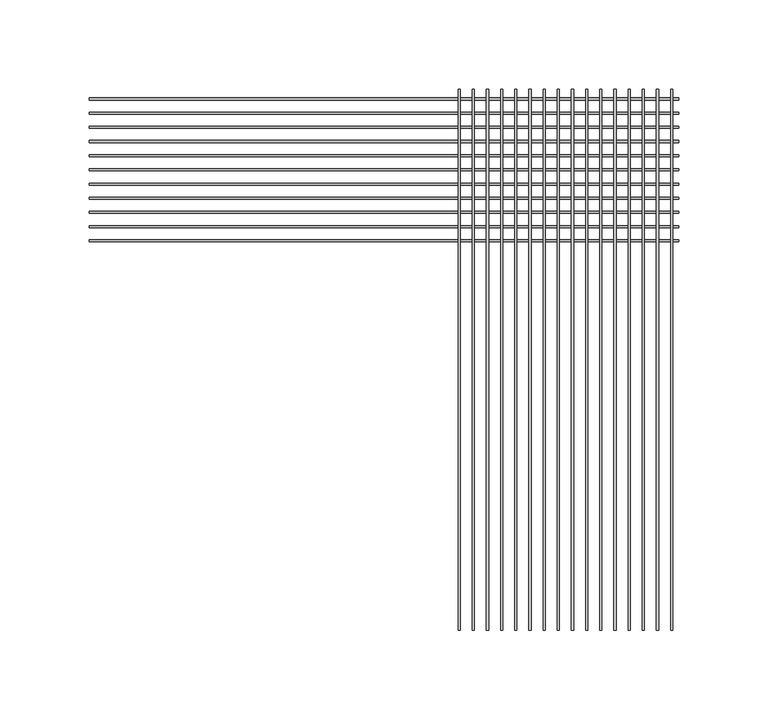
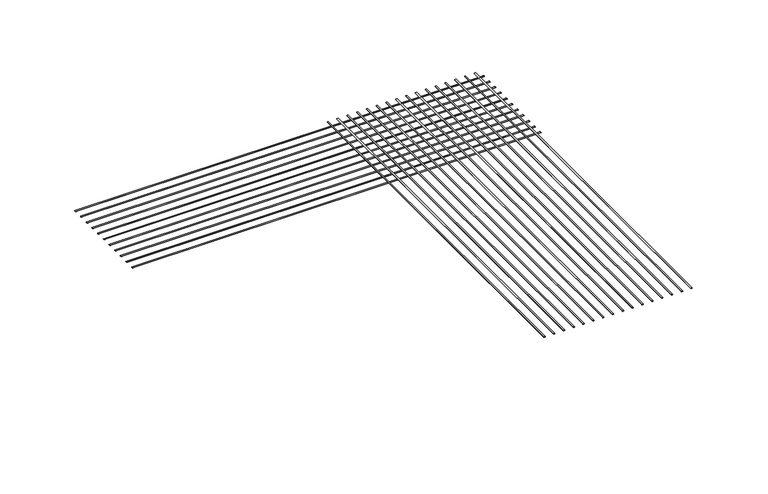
"""IFC4 building model written with IfcOpenShell, lengths in millimetres: proxy geometry, CRAi Generic Model Mesh Piece Face Based : CRAi Generic Model Mesh Piece Face Based."""

from ifc_helpers import new_model, si_unit, point, frame, origin, place, context, project, spatial, ellipse_curve, trimmed, source, transform, mapped, element, save
from ifc_brep_helpers import plane_surface, extruded_surface, advanced_brep


def generic_models_31d49adb(model_context):
    return source(origin(), model_context, "Body", "AdvancedBrep", [
        advanced_brep(
        [(41.4734375, -151.5685464, -2.5796875), (42.6640625, -151.5685464, -2.5796875), (41.4734375, 151.5685464, -2.5796875), (42.6640625, 151.5685464, -2.5796875)],
        [
            (0, 1, ellipse_curve(frame((42.06875, -151.5685464, -2.5796875), z_axis=(0.0, -1.0, 0.0), x_axis=(1.0, 0.0, 0.0)), 0.5953125, 0.1984375)),
            (1, 0, ellipse_curve(frame((42.06875, -151.5685464, -2.5796875), z_axis=(0.0, -1.0, 0.0), x_axis=(1.0, 0.0, 0.0)), 0.5953125, 0.1984375)),
            (2, 3, ellipse_curve(frame((42.06875, 151.5685464, -2.5796875), z_axis=(0.0, 1.0, 0.0), x_axis=(1.0, 0.0, 0.0)), 0.5953125, 0.1984375)),
            (3, 2, ellipse_curve(frame((42.06875, 151.5685464, -2.5796875), z_axis=(0.0, 1.0, 0.0), x_axis=(1.0, 0.0, 0.0)), 0.5953125, 0.1984375)),
            (0, 2),
            (3, 1),
        ],
        [
            plane_surface(frame((42.06875, -151.5685464, -2.5796875), z_axis=(0.0, -1.0, 0.0), x_axis=(0.0, 0.0, 1.0))),
            plane_surface(frame((42.06875, 151.5685464, -2.5796875), z_axis=(0.0, 1.0, 0.0), x_axis=(0.0, 0.0, 1.0))),
            extruded_surface(trimmed(ellipse_curve(frame((42.06875, 151.5685464, -2.5796875), z_axis=(0.0, -1.0, 0.0), x_axis=(1.0, 0.0, 0.0)), 0.5953125, 0.1984375), [point((41.4734375, 151.5685464, -2.5796875))], [point((42.6640625, 151.5685464, -2.5796875))], True, "CARTESIAN"), (0.0, -303.1370928, 0.0), 303.1370928),
            extruded_surface(trimmed(ellipse_curve(frame((42.06875, 151.5685464, -2.5796875), z_axis=(0.0, -1.0, 0.0), x_axis=(1.0, 0.0, 0.0)), 0.5953125, 0.1984375), [point((42.6640625, 151.5685464, -2.5796875))], [point((41.4734375, 151.5685464, -2.5796875))], True, "CARTESIAN"), (0.0, -303.1370928, 0.0), 303.1370928),
        ],
        [
            (0, [[1, 2]]),
            (1, [[3, 4]]),
            (2, [[-1, 5, -4, 6]]),
            (3, [[-2, -6, -3, -5]]),
        ],
    ),
        advanced_brep(
        [(49.4109375, -151.5685464, -2.5796875), (50.6015625, -151.5685464, -2.5796875), (49.4109375, 151.5685464, -2.5796875), (50.6015625, 151.5685464, -2.5796875)],
        [
            (0, 1, ellipse_curve(frame((50.00625, -151.5685464, -2.5796875), z_axis=(0.0, -1.0, 0.0), x_axis=(1.0, 0.0, 0.0)), 0.5953125, 0.1984375)),
            (1, 0, ellipse_curve(frame((50.00625, -151.5685464, -2.5796875), z_axis=(0.0, -1.0, 0.0), x_axis=(1.0, 0.0, 0.0)), 0.5953125, 0.1984375)),
            (2, 3, ellipse_curve(frame((50.00625, 151.5685464, -2.5796875), z_axis=(0.0, 1.0, 0.0), x_axis=(1.0, 0.0, 0.0)), 0.5953125, 0.1984375)),
            (3, 2, ellipse_curve(frame((50.00625, 151.5685464, -2.5796875), z_axis=(0.0, 1.0, 0.0), x_axis=(1.0, 0.0, 0.0)), 0.5953125, 0.1984375)),
            (0, 2),
            (3, 1),
        ],
        [
            plane_surface(frame((50.00625, -151.5685464, -2.5796875), z_axis=(0.0, -1.0, 0.0), x_axis=(0.0, 0.0, 1.0))),
            plane_surface(frame((50.00625, 151.5685464, -2.5796875), z_axis=(0.0, 1.0, 0.0), x_axis=(0.0, 0.0, 1.0))),
            extruded_surface(trimmed(ellipse_curve(frame((50.00625, 151.5685464, -2.5796875), z_axis=(0.0, -1.0, 0.0), x_axis=(1.0, 0.0, 0.0)), 0.5953125, 0.1984375), [point((49.4109375, 151.5685464, -2.5796875))], [point((50.6015625, 151.5685464, -2.5796875))], True, "CARTESIAN"), (0.0, -303.1370928, 0.0), 303.1370928),
            extruded_surface(trimmed(ellipse_curve(frame((50.00625, 151.5685464, -2.5796875), z_axis=(0.0, -1.0, 0.0), x_axis=(1.0, 0.0, 0.0)), 0.5953125, 0.1984375), [point((50.6015625, 151.5685464, -2.5796875))], [point((49.4109375, 151.5685464, -2.5796875))], True, "CARTESIAN"), (0.0, -303.1370928, 0.0), 303.1370928),
        ],
        [
            (0, [[1, 2]]),
            (1, [[3, 4]]),
            (2, [[-1, 5, -4, 6]]),
            (3, [[-2, -6, -3, -5]]),
        ],
    ),
        advanced_brep(
        [(57.3484375, -151.5685464, -2.5796875), (58.5390625, -151.5685464, -2.5796875), (57.3484375, 151.5685464, -2.5796875), (58.5390625, 151.5685464, -2.5796875)],
        [
            (0, 1, ellipse_curve(frame((57.94375, -151.5685464, -2.5796875), z_axis=(0.0, -1.0, 0.0), x_axis=(1.0, 0.0, 0.0)), 0.5953125, 0.1984375)),
            (1, 0, ellipse_curve(frame((57.94375, -151.5685464, -2.5796875), z_axis=(0.0, -1.0, 0.0), x_axis=(1.0, 0.0, 0.0)), 0.5953125, 0.1984375)),
            (2, 3, ellipse_curve(frame((57.94375, 151.5685464, -2.5796875), z_axis=(0.0, 1.0, 0.0), x_axis=(1.0, 0.0, 0.0)), 0.5953125, 0.1984375)),
            (3, 2, ellipse_curve(frame((57.94375, 151.5685464, -2.5796875), z_axis=(0.0, 1.0, 0.0), x_axis=(1.0, 0.0, 0.0)), 0.5953125, 0.1984375)),
            (0, 2),
            (3, 1),
        ],
        [
            plane_surface(frame((57.94375, -151.5685464, -2.5796875), z_axis=(0.0, -1.0, 0.0), x_axis=(0.0, 0.0, 1.0))),
            plane_surface(frame((57.94375, 151.5685464, -2.5796875), z_axis=(0.0, 1.0, 0.0), x_axis=(0.0, 0.0, 1.0))),
            extruded_surface(trimmed(ellipse_curve(frame((57.94375, 151.5685464, -2.5796875), z_axis=(0.0, -1.0, 0.0), x_axis=(1.0, 0.0, 0.0)), 0.5953125, 0.1984375), [point((57.3484375, 151.5685464, -2.5796875))], [point((58.5390625, 151.5685464, -2.5796875))], True, "CARTESIAN"), (0.0, -303.1370928, 0.0), 303.1370928),
            extruded_surface(trimmed(ellipse_curve(frame((57.94375, 151.5685464, -2.5796875), z_axis=(0.0, -1.0, 0.0), x_axis=(1.0, 0.0, 0.0)), 0.5953125, 0.1984375), [point((58.5390625, 151.5685464, -2.5796875))], [point((57.3484375, 151.5685464, -2.5796875))], True, "CARTESIAN"), (0.0, -303.1370928, 0.0), 303.1370928),
        ],
        [
            (0, [[1, 2]]),
            (1, [[3, 4]]),
            (2, [[-1, 5, -4, 6]]),
            (3, [[-2, -6, -3, -5]]),
        ],
    ),
        advanced_brep(
        [(65.2859375, -151.5685464, -2.5796875), (66.4765625, -151.5685464, -2.5796875), (65.2859375, 151.5685464, -2.5796875), (66.4765625, 151.5685464, -2.5796875)],
        [
            (0, 1, ellipse_curve(frame((65.88125, -151.5685464, -2.5796875), z_axis=(0.0, -1.0, 0.0), x_axis=(1.0, 0.0, 0.0)), 0.5953125, 0.1984375)),
            (1, 0, ellipse_curve(frame((65.88125, -151.5685464, -2.5796875), z_axis=(0.0, -1.0, 0.0), x_axis=(1.0, 0.0, 0.0)), 0.5953125, 0.1984375)),
            (2, 3, ellipse_curve(frame((65.88125, 151.5685464, -2.5796875), z_axis=(0.0, 1.0, 0.0), x_axis=(1.0, 0.0, 0.0)), 0.5953125, 0.1984375)),
            (3, 2, ellipse_curve(frame((65.88125, 151.5685464, -2.5796875), z_axis=(0.0, 1.0, 0.0), x_axis=(1.0, 0.0, 0.0)), 0.5953125, 0.1984375)),
            (0, 2),
            (3, 1),
        ],
        [
            plane_surface(frame((65.88125, -151.5685464, -2.5796875), z_axis=(0.0, -1.0, 0.0), x_axis=(0.0, 0.0, 1.0))),
            plane_surface(frame((65.88125, 151.5685464, -2.5796875), z_axis=(0.0, 1.0, 0.0), x_axis=(0.0, 0.0, 1.0))),
            extruded_surface(trimmed(ellipse_curve(frame((65.88125, 151.5685464, -2.5796875), z_axis=(0.0, -1.0, 0.0), x_axis=(1.0, 0.0, 0.0)), 0.5953125, 0.1984375), [point((65.2859375, 151.5685464, -2.5796875))], [point((66.4765625, 151.5685464, -2.5796875))], True, "CARTESIAN"), (0.0, -303.1370928, 0.0), 303.1370928),
            extruded_surface(trimmed(ellipse_curve(frame((65.88125, 151.5685464, -2.5796875), z_axis=(0.0, -1.0, 0.0), x_axis=(1.0, 0.0, 0.0)), 0.5953125, 0.1984375), [point((66.4765625, 151.5685464, -2.5796875))], [point((65.2859375, 151.5685464, -2.5796875))], True, "CARTESIAN"), (0.0, -303.1370928, 0.0), 303.1370928),
        ],
        [
            (0, [[1, 2]]),
            (1, [[3, 4]]),
            (2, [[-1, 5, -4, 6]]),
            (3, [[-2, -6, -3, -5]]),
        ],
    ),
        advanced_brep(
        [(73.2234375, -151.5685464, -2.5796875), (74.4140625, -151.5685464, -2.5796875), (73.2234375, 151.5685464, -2.5796875), (74.4140625, 151.5685464, -2.5796875)],
        [
            (0, 1, ellipse_curve(frame((73.81875, -151.5685464, -2.5796875), z_axis=(0.0, -1.0, 0.0), x_axis=(1.0, 0.0, 0.0)), 0.5953125, 0.1984375)),
            (1, 0, ellipse_curve(frame((73.81875, -151.5685464, -2.5796875), z_axis=(0.0, -1.0, 0.0), x_axis=(1.0, 0.0, 0.0)), 0.5953125, 0.1984375)),
            (2, 3, ellipse_curve(frame((73.81875, 151.5685464, -2.5796875), z_axis=(0.0, 1.0, 0.0), x_axis=(1.0, 0.0, 0.0)), 0.5953125, 0.1984375)),
            (3, 2, ellipse_curve(frame((73.81875, 151.5685464, -2.5796875), z_axis=(0.0, 1.0, 0.0), x_axis=(1.0, 0.0, 0.0)), 0.5953125, 0.1984375)),
            (0, 2),
            (3, 1),
        ],
        [
            plane_surface(frame((73.81875, -151.5685464, -2.5796875), z_axis=(0.0, -1.0, 0.0), x_axis=(0.0, 0.0, 1.0))),
            plane_surface(frame((73.81875, 151.5685464, -2.5796875), z_axis=(0.0, 1.0, 0.0), x_axis=(0.0, 0.0, 1.0))),
            extruded_surface(trimmed(ellipse_curve(frame((73.81875, 151.5685464, -2.5796875), z_axis=(0.0, -1.0, 0.0), x_axis=(1.0, 0.0, 0.0)), 0.5953125, 0.1984375), [point((73.2234375, 151.5685464, -2.5796875))], [point((74.4140625, 151.5685464, -2.5796875))], True, "CARTESIAN"), (0.0, -303.1370928, 0.0), 303.1370928),
            extruded_surface(trimmed(ellipse_curve(frame((73.81875, 151.5685464, -2.5796875), z_axis=(0.0, -1.0, 0.0), x_axis=(1.0, 0.0, 0.0)), 0.5953125, 0.1984375), [point((74.4140625, 151.5685464, -2.5796875))], [point((73.2234375, 151.5685464, -2.5796875))], True, "CARTESIAN"), (0.0, -303.1370928, 0.0), 303.1370928),
        ],
        [
            (0, [[1, 2]]),
            (1, [[3, 4]]),
            (2, [[-1, 5, -4, 6]]),
            (3, [[-2, -6, -3, -5]]),
        ],
    ),
        advanced_brep(
        [(81.1609375, -151.5685464, -2.5796875), (82.3515625, -151.5685464, -2.5796875), (81.1609375, 151.5685464, -2.5796875), (82.3515625, 151.5685464, -2.5796875)],
        [
            (0, 1, ellipse_curve(frame((81.75625, -151.5685464, -2.5796875), z_axis=(0.0, -1.0, 0.0), x_axis=(1.0, 0.0, 0.0)), 0.5953125, 0.1984375)),
            (1, 0, ellipse_curve(frame((81.75625, -151.5685464, -2.5796875), z_axis=(0.0, -1.0, 0.0), x_axis=(1.0, 0.0, 0.0)), 0.5953125, 0.1984375)),
            (2, 3, ellipse_curve(frame((81.75625, 151.5685464, -2.5796875), z_axis=(0.0, 1.0, 0.0), x_axis=(1.0, 0.0, 0.0)), 0.5953125, 0.1984375)),
            (3, 2, ellipse_curve(frame((81.75625, 151.5685464, -2.5796875), z_axis=(0.0, 1.0, 0.0), x_axis=(1.0, 0.0, 0.0)), 0.5953125, 0.1984375)),
            (0, 2),
            (3, 1),
        ],
        [
            plane_surface(frame((81.75625, -151.5685464, -2.5796875), z_axis=(0.0, -1.0, 0.0), x_axis=(0.0, 0.0, 1.0))),
            plane_surface(frame((81.75625, 151.5685464, -2.5796875), z_axis=(0.0, 1.0, 0.0), x_axis=(0.0, 0.0, 1.0))),
            extruded_surface(trimmed(ellipse_curve(frame((81.75625, 151.5685464, -2.5796875), z_axis=(0.0, -1.0, 0.0), x_axis=(1.0, 0.0, 0.0)), 0.5953125, 0.1984375), [point((81.1609375, 151.5685464, -2.5796875))], [point((82.3515625, 151.5685464, -2.5796875))], True, "CARTESIAN"), (0.0, -303.1370928, 0.0), 303.1370928),
            extruded_surface(trimmed(ellipse_curve(frame((81.75625, 151.5685464, -2.5796875), z_axis=(0.0, -1.0, 0.0), x_axis=(1.0, 0.0, 0.0)), 0.5953125, 0.1984375), [point((82.3515625, 151.5685464, -2.5796875))], [point((81.1609375, 151.5685464, -2.5796875))], True, "CARTESIAN"), (0.0, -303.1370928, 0.0), 303.1370928),
        ],
        [
            (0, [[1, 2]]),
            (1, [[3, 4]]),
            (2, [[-1, 5, -4, 6]]),
            (3, [[-2, -6, -3, -5]]),
        ],
    ),
        advanced_brep(
        [(89.0984375, -151.5685464, -2.5796875), (90.2890625, -151.5685464, -2.5796875), (89.0984375, 151.5685464, -2.5796875), (90.2890625, 151.5685464, -2.5796875)],
        [
            (0, 1, ellipse_curve(frame((89.69375, -151.5685464, -2.5796875), z_axis=(0.0, -1.0, 0.0), x_axis=(1.0, 0.0, 0.0)), 0.5953125, 0.1984375)),
            (1, 0, ellipse_curve(frame((89.69375, -151.5685464, -2.5796875), z_axis=(0.0, -1.0, 0.0), x_axis=(1.0, 0.0, 0.0)), 0.5953125, 0.1984375)),
            (2, 3, ellipse_curve(frame((89.69375, 151.5685464, -2.5796875), z_axis=(0.0, 1.0, 0.0), x_axis=(1.0, 0.0, 0.0)), 0.5953125, 0.1984375)),
            (3, 2, ellipse_curve(frame((89.69375, 151.5685464, -2.5796875), z_axis=(0.0, 1.0, 0.0), x_axis=(1.0, 0.0, 0.0)), 0.5953125, 0.1984375)),
            (0, 2),
            (3, 1),
        ],
        [
            plane_surface(frame((89.69375, -151.5685464, -2.5796875), z_axis=(0.0, -1.0, 0.0), x_axis=(0.0, 0.0, 1.0))),
            plane_surface(frame((89.69375, 151.5685464, -2.5796875), z_axis=(0.0, 1.0, 0.0), x_axis=(0.0, 0.0, 1.0))),
            extruded_surface(trimmed(ellipse_curve(frame((89.69375, 151.5685464, -2.5796875), z_axis=(0.0, -1.0, 0.0), x_axis=(1.0, 0.0, 0.0)), 0.5953125, 0.1984375), [point((89.0984375, 151.5685464, -2.5796875))], [point((90.2890625, 151.5685464, -2.5796875))], True, "CARTESIAN"), (0.0, -303.1370928, 0.0), 303.1370928),
            extruded_surface(trimmed(ellipse_curve(frame((89.69375, 151.5685464, -2.5796875), z_axis=(0.0, -1.0, 0.0), x_axis=(1.0, 0.0, 0.0)), 0.5953125, 0.1984375), [point((90.2890625, 151.5685464, -2.5796875))], [point((89.0984375, 151.5685464, -2.5796875))], True, "CARTESIAN"), (0.0, -303.1370928, 0.0), 303.1370928),
        ],
        [
            (0, [[1, 2]]),
            (1, [[3, 4]]),
            (2, [[-1, 5, -4, 6]]),
            (3, [[-2, -6, -3, -5]]),
        ],
    ),
        advanced_brep(
        [(97.0359375, -151.5685464, -2.5796875), (98.2265625, -151.5685464, -2.5796875), (97.0359375, 151.5685464, -2.5796875), (98.2265625, 151.5685464, -2.5796875)],
        [
            (0, 1, ellipse_curve(frame((97.63125, -151.5685464, -2.5796875), z_axis=(0.0, -1.0, 0.0), x_axis=(1.0, 0.0, 0.0)), 0.5953125, 0.1984375)),
            (1, 0, ellipse_curve(frame((97.63125, -151.5685464, -2.5796875), z_axis=(0.0, -1.0, 0.0), x_axis=(1.0, 0.0, 0.0)), 0.5953125, 0.1984375)),
            (2, 3, ellipse_curve(frame((97.63125, 151.5685464, -2.5796875), z_axis=(0.0, 1.0, 0.0), x_axis=(1.0, 0.0, 0.0)), 0.5953125, 0.1984375)),
            (3, 2, ellipse_curve(frame((97.63125, 151.5685464, -2.5796875), z_axis=(0.0, 1.0, 0.0), x_axis=(1.0, 0.0, 0.0)), 0.5953125, 0.1984375)),
            (0, 2),
            (3, 1),
        ],
        [
            plane_surface(frame((97.63125, -151.5685464, -2.5796875), z_axis=(0.0, -1.0, 0.0), x_axis=(0.0, 0.0, 1.0))),
            plane_surface(frame((97.63125, 151.5685464, -2.5796875), z_axis=(0.0, 1.0, 0.0), x_axis=(0.0, 0.0, 1.0))),
            extruded_surface(trimmed(ellipse_curve(frame((97.63125, 151.5685464, -2.5796875), z_axis=(0.0, -1.0, 0.0), x_axis=(1.0, 0.0, 0.0)), 0.5953125, 0.1984375), [point((97.0359375, 151.5685464, -2.5796875))], [point((98.2265625, 151.5685464, -2.5796875))], True, "CARTESIAN"), (0.0, -303.1370928, 0.0), 303.1370928),
            extruded_surface(trimmed(ellipse_curve(frame((97.63125, 151.5685464, -2.5796875), z_axis=(0.0, -1.0, 0.0), x_axis=(1.0, 0.0, 0.0)), 0.5953125, 0.1984375), [point((98.2265625, 151.5685464, -2.5796875))], [point((97.0359375, 151.5685464, -2.5796875))], True, "CARTESIAN"), (0.0, -303.1370928, 0.0), 303.1370928),
        ],
        [
            (0, [[1, 2]]),
            (1, [[3, 4]]),
            (2, [[-1, 5, -4, 6]]),
            (3, [[-2, -6, -3, -5]]),
        ],
    ),
        advanced_brep(
        [(104.9734375, -151.5685464, -2.5796875), (106.1640625, -151.5685464, -2.5796875), (104.9734375, 151.5685464, -2.5796875), (106.1640625, 151.5685464, -2.5796875)],
        [
            (0, 1, ellipse_curve(frame((105.56875, -151.5685464, -2.5796875), z_axis=(0.0, -1.0, 0.0), x_axis=(1.0, 0.0, 0.0)), 0.5953125, 0.1984375)),
            (1, 0, ellipse_curve(frame((105.56875, -151.5685464, -2.5796875), z_axis=(0.0, -1.0, 0.0), x_axis=(1.0, 0.0, 0.0)), 0.5953125, 0.1984375)),
            (2, 3, ellipse_curve(frame((105.56875, 151.5685464, -2.5796875), z_axis=(0.0, 1.0, 0.0), x_axis=(1.0, 0.0, 0.0)), 0.5953125, 0.1984375)),
            (3, 2, ellipse_curve(frame((105.56875, 151.5685464, -2.5796875), z_axis=(0.0, 1.0, 0.0), x_axis=(1.0, 0.0, 0.0)), 0.5953125, 0.1984375)),
            (0, 2),
            (3, 1),
        ],
        [
            plane_surface(frame((105.56875, -151.5685464, -2.5796875), z_axis=(0.0, -1.0, 0.0), x_axis=(0.0, 0.0, 1.0))),
            plane_surface(frame((105.56875, 151.5685464, -2.5796875), z_axis=(0.0, 1.0, 0.0), x_axis=(0.0, 0.0, 1.0))),
            extruded_surface(trimmed(ellipse_curve(frame((105.56875, 151.5685464, -2.5796875), z_axis=(0.0, -1.0, 0.0), x_axis=(1.0, 0.0, 0.0)), 0.5953125, 0.1984375), [point((104.9734375, 151.5685464, -2.5796875))], [point((106.1640625, 151.5685464, -2.5796875))], True, "CARTESIAN"), (0.0, -303.1370928, 0.0), 303.1370928),
            extruded_surface(trimmed(ellipse_curve(frame((105.56875, 151.5685464, -2.5796875), z_axis=(0.0, -1.0, 0.0), x_axis=(1.0, 0.0, 0.0)), 0.5953125, 0.1984375), [point((106.1640625, 151.5685464, -2.5796875))], [point((104.9734375, 151.5685464, -2.5796875))], True, "CARTESIAN"), (0.0, -303.1370928, 0.0), 303.1370928),
        ],
        [
            (0, [[1, 2]]),
            (1, [[3, 4]]),
            (2, [[-1, 5, -4, 6]]),
            (3, [[-2, -6, -3, -5]]),
        ],
    ),
        advanced_brep(
        [(112.9109375, -151.5685464, -2.5796875), (114.1015625, -151.5685464, -2.5796875), (112.9109375, 151.5685464, -2.5796875), (114.1015625, 151.5685464, -2.5796875)],
        [
            (0, 1, ellipse_curve(frame((113.50625, -151.5685464, -2.5796875), z_axis=(0.0, -1.0, 0.0), x_axis=(1.0, 0.0, 0.0)), 0.5953125, 0.1984375)),
            (1, 0, ellipse_curve(frame((113.50625, -151.5685464, -2.5796875), z_axis=(0.0, -1.0, 0.0), x_axis=(1.0, 0.0, 0.0)), 0.5953125, 0.1984375)),
            (2, 3, ellipse_curve(frame((113.50625, 151.5685464, -2.5796875), z_axis=(0.0, 1.0, 0.0), x_axis=(1.0, 0.0, 0.0)), 0.5953125, 0.1984375)),
            (3, 2, ellipse_curve(frame((113.50625, 151.5685464, -2.5796875), z_axis=(0.0, 1.0, 0.0), x_axis=(1.0, 0.0, 0.0)), 0.5953125, 0.1984375)),
            (0, 2),
            (3, 1),
        ],
        [
            plane_surface(frame((113.50625, -151.5685464, -2.5796875), z_axis=(0.0, -1.0, 0.0), x_axis=(0.0, 0.0, 1.0))),
            plane_surface(frame((113.50625, 151.5685464, -2.5796875), z_axis=(0.0, 1.0, 0.0), x_axis=(0.0, 0.0, 1.0))),
            extruded_surface(trimmed(ellipse_curve(frame((113.50625, 151.5685464, -2.5796875), z_axis=(0.0, -1.0, 0.0), x_axis=(1.0, 0.0, 0.0)), 0.5953125, 0.1984375), [point((112.9109375, 151.5685464, -2.5796875))], [point((114.1015625, 151.5685464, -2.5796875))], True, "CARTESIAN"), (0.0, -303.1370928, 0.0), 303.1370928),
            extruded_surface(trimmed(ellipse_curve(frame((113.50625, 151.5685464, -2.5796875), z_axis=(0.0, -1.0, 0.0), x_axis=(1.0, 0.0, 0.0)), 0.5953125, 0.1984375), [point((114.1015625, 151.5685464, -2.5796875))], [point((112.9109375, 151.5685464, -2.5796875))], True, "CARTESIAN"), (0.0, -303.1370928, 0.0), 303.1370928),
        ],
        [
            (0, [[1, 2]]),
            (1, [[3, 4]]),
            (2, [[-1, 5, -4, 6]]),
            (3, [[-2, -6, -3, -5]]),
        ],
    ),
        advanced_brep(
        [(120.8484375, -151.5685464, -2.5796875), (122.0390625, -151.5685464, -2.5796875), (120.8484375, 151.5685464, -2.5796875), (122.0390625, 151.5685464, -2.5796875)],
        [
            (0, 1, ellipse_curve(frame((121.44375, -151.5685464, -2.5796875), z_axis=(0.0, -1.0, 0.0), x_axis=(1.0, 0.0, 0.0)), 0.5953125, 0.1984375)),
            (1, 0, ellipse_curve(frame((121.44375, -151.5685464, -2.5796875), z_axis=(0.0, -1.0, 0.0), x_axis=(1.0, 0.0, 0.0)), 0.5953125, 0.1984375)),
            (2, 3, ellipse_curve(frame((121.44375, 151.5685464, -2.5796875), z_axis=(0.0, 1.0, 0.0), x_axis=(1.0, 0.0, 0.0)), 0.5953125, 0.1984375)),
            (3, 2, ellipse_curve(frame((121.44375, 151.5685464, -2.5796875), z_axis=(0.0, 1.0, 0.0), x_axis=(1.0, 0.0, 0.0)), 0.5953125, 0.1984375)),
            (0, 2),
            (3, 1),
        ],
        [
            plane_surface(frame((121.44375, -151.5685464, -2.5796875), z_axis=(0.0, -1.0, 0.0), x_axis=(0.0, 0.0, 1.0))),
            plane_surface(frame((121.44375, 151.5685464, -2.5796875), z_axis=(0.0, 1.0, 0.0), x_axis=(0.0, 0.0, 1.0))),
            extruded_surface(trimmed(ellipse_curve(frame((121.44375, 151.5685464, -2.5796875), z_axis=(0.0, -1.0, 0.0), x_axis=(1.0, 0.0, 0.0)), 0.5953125, 0.1984375), [point((120.8484375, 151.5685464, -2.5796875))], [point((122.0390625, 151.5685464, -2.5796875))], True, "CARTESIAN"), (0.0, -303.1370928, 0.0), 303.1370928),
            extruded_surface(trimmed(ellipse_curve(frame((121.44375, 151.5685464, -2.5796875), z_axis=(0.0, -1.0, 0.0), x_axis=(1.0, 0.0, 0.0)), 0.5953125, 0.1984375), [point((122.0390625, 151.5685464, -2.5796875))], [point((120.8484375, 151.5685464, -2.5796875))], True, "CARTESIAN"), (0.0, -303.1370928, 0.0), 303.1370928),
        ],
        [
            (0, [[1, 2]]),
            (1, [[3, 4]]),
            (2, [[-1, 5, -4, 6]]),
            (3, [[-2, -6, -3, -5]]),
        ],
    ),
        advanced_brep(
        [(128.7859375, -151.5685464, -2.5796875), (129.9765625, -151.5685464, -2.5796875), (128.7859375, 151.5685464, -2.5796875), (129.9765625, 151.5685464, -2.5796875)],
        [
            (0, 1, ellipse_curve(frame((129.38125, -151.5685464, -2.5796875), z_axis=(0.0, -1.0, 0.0), x_axis=(1.0, 0.0, 0.0)), 0.5953125, 0.1984375)),
            (1, 0, ellipse_curve(frame((129.38125, -151.5685464, -2.5796875), z_axis=(0.0, -1.0, 0.0), x_axis=(1.0, 0.0, 0.0)), 0.5953125, 0.1984375)),
            (2, 3, ellipse_curve(frame((129.38125, 151.5685464, -2.5796875), z_axis=(0.0, 1.0, 0.0), x_axis=(1.0, 0.0, 0.0)), 0.5953125, 0.1984375)),
            (3, 2, ellipse_curve(frame((129.38125, 151.5685464, -2.5796875), z_axis=(0.0, 1.0, 0.0), x_axis=(1.0, 0.0, 0.0)), 0.5953125, 0.1984375)),
            (0, 2),
            (3, 1),
        ],
        [
            plane_surface(frame((129.38125, -151.5685464, -2.5796875), z_axis=(0.0, -1.0, 0.0), x_axis=(0.0, 0.0, 1.0))),
            plane_surface(frame((129.38125, 151.5685464, -2.5796875), z_axis=(0.0, 1.0, 0.0), x_axis=(0.0, 0.0, 1.0))),
            extruded_surface(trimmed(ellipse_curve(frame((129.38125, 151.5685464, -2.5796875), z_axis=(0.0, -1.0, 0.0), x_axis=(1.0, 0.0, 0.0)), 0.5953125, 0.1984375), [point((128.7859375, 151.5685464, -2.5796875))], [point((129.9765625, 151.5685464, -2.5796875))], True, "CARTESIAN"), (0.0, -303.1370928, 0.0), 303.1370928),
            extruded_surface(trimmed(ellipse_curve(frame((129.38125, 151.5685464, -2.5796875), z_axis=(0.0, -1.0, 0.0), x_axis=(1.0, 0.0, 0.0)), 0.5953125, 0.1984375), [point((129.9765625, 151.5685464, -2.5796875))], [point((128.7859375, 151.5685464, -2.5796875))], True, "CARTESIAN"), (0.0, -303.1370928, 0.0), 303.1370928),
        ],
        [
            (0, [[1, 2]]),
            (1, [[3, 4]]),
            (2, [[-1, 5, -4, 6]]),
            (3, [[-2, -6, -3, -5]]),
        ],
    ),
        advanced_brep(
        [(136.7234375, -151.5685464, -2.5796875), (137.9140625, -151.5685464, -2.5796875), (136.7234375, 151.5685464, -2.5796875), (137.9140625, 151.5685464, -2.5796875)],
        [
            (0, 1, ellipse_curve(frame((137.31875, -151.5685464, -2.5796875), z_axis=(0.0, -1.0, 0.0), x_axis=(1.0, 0.0, 0.0)), 0.5953125, 0.1984375)),
            (1, 0, ellipse_curve(frame((137.31875, -151.5685464, -2.5796875), z_axis=(0.0, -1.0, 0.0), x_axis=(1.0, 0.0, 0.0)), 0.5953125, 0.1984375)),
            (2, 3, ellipse_curve(frame((137.31875, 151.5685464, -2.5796875), z_axis=(0.0, 1.0, 0.0), x_axis=(1.0, 0.0, 0.0)), 0.5953125, 0.1984375)),
            (3, 2, ellipse_curve(frame((137.31875, 151.5685464, -2.5796875), z_axis=(0.0, 1.0, 0.0), x_axis=(1.0, 0.0, 0.0)), 0.5953125, 0.1984375)),
            (0, 2),
            (3, 1),
        ],
        [
            plane_surface(frame((137.31875, -151.5685464, -2.5796875), z_axis=(0.0, -1.0, 0.0), x_axis=(0.0, 0.0, 1.0))),
            plane_surface(frame((137.31875, 151.5685464, -2.5796875), z_axis=(0.0, 1.0, 0.0), x_axis=(0.0, 0.0, 1.0))),
            extruded_surface(trimmed(ellipse_curve(frame((137.31875, 151.5685464, -2.5796875), z_axis=(0.0, -1.0, 0.0), x_axis=(1.0, 0.0, 0.0)), 0.5953125, 0.1984375), [point((136.7234375, 151.5685464, -2.5796875))], [point((137.9140625, 151.5685464, -2.5796875))], True, "CARTESIAN"), (0.0, -303.1370928, 0.0), 303.1370928),
            extruded_surface(trimmed(ellipse_curve(frame((137.31875, 151.5685464, -2.5796875), z_axis=(0.0, -1.0, 0.0), x_axis=(1.0, 0.0, 0.0)), 0.5953125, 0.1984375), [point((137.9140625, 151.5685464, -2.5796875))], [point((136.7234375, 151.5685464, -2.5796875))], True, "CARTESIAN"), (0.0, -303.1370928, 0.0), 303.1370928),
        ],
        [
            (0, [[1, 2]]),
            (1, [[3, 4]]),
            (2, [[-1, 5, -4, 6]]),
            (3, [[-2, -6, -3, -5]]),
        ],
    ),
        advanced_brep(
        [(144.6609375, -151.5685464, -2.5796875), (145.8515625, -151.5685464, -2.5796875), (144.6609375, 151.5685464, -2.5796875), (145.8515625, 151.5685464, -2.5796875)],
        [
            (0, 1, ellipse_curve(frame((145.25625, -151.5685464, -2.5796875), z_axis=(0.0, -1.0, 0.0), x_axis=(1.0, 0.0, 0.0)), 0.5953125, 0.1984375)),
            (1, 0, ellipse_curve(frame((145.25625, -151.5685464, -2.5796875), z_axis=(0.0, -1.0, 0.0), x_axis=(1.0, 0.0, 0.0)), 0.5953125, 0.1984375)),
            (2, 3, ellipse_curve(frame((145.25625, 151.5685464, -2.5796875), z_axis=(0.0, 1.0, 0.0), x_axis=(1.0, 0.0, 0.0)), 0.5953125, 0.1984375)),
            (3, 2, ellipse_curve(frame((145.25625, 151.5685464, -2.5796875), z_axis=(0.0, 1.0, 0.0), x_axis=(1.0, 0.0, 0.0)), 0.5953125, 0.1984375)),
            (0, 2),
            (3, 1),
        ],
        [
            plane_surface(frame((145.25625, -151.5685464, -2.5796875), z_axis=(0.0, -1.0, 0.0), x_axis=(0.0, 0.0, 1.0))),
            plane_surface(frame((145.25625, 151.5685464, -2.5796875), z_axis=(0.0, 1.0, 0.0), x_axis=(0.0, 0.0, 1.0))),
            extruded_surface(trimmed(ellipse_curve(frame((145.25625, 151.5685464, -2.5796875), z_axis=(0.0, -1.0, 0.0), x_axis=(1.0, 0.0, 0.0)), 0.5953125, 0.1984375), [point((144.6609375, 151.5685464, -2.5796875))], [point((145.8515625, 151.5685464, -2.5796875))], True, "CARTESIAN"), (0.0, -303.1370928, 0.0), 303.1370928),
            extruded_surface(trimmed(ellipse_curve(frame((145.25625, 151.5685464, -2.5796875), z_axis=(0.0, -1.0, 0.0), x_axis=(1.0, 0.0, 0.0)), 0.5953125, 0.1984375), [point((145.8515625, 151.5685464, -2.5796875))], [point((144.6609375, 151.5685464, -2.5796875))], True, "CARTESIAN"), (0.0, -303.1370928, 0.0), 303.1370928),
        ],
        [
            (0, [[1, 2]]),
            (1, [[3, 4]]),
            (2, [[-1, 5, -4, 6]]),
            (3, [[-2, -6, -3, -5]]),
        ],
    ),
        advanced_brep(
        [(152.5984375, -151.5685464, -2.5796875), (153.7890625, -151.5685464, -2.5796875), (152.5984375, 151.5685464, -2.5796875), (153.7890625, 151.5685464, -2.5796875)],
        [
            (0, 1, ellipse_curve(frame((153.19375, -151.5685464, -2.5796875), z_axis=(0.0, -1.0, 0.0), x_axis=(1.0, 0.0, 0.0)), 0.5953125, 0.1984375)),
            (1, 0, ellipse_curve(frame((153.19375, -151.5685464, -2.5796875), z_axis=(0.0, -1.0, 0.0), x_axis=(1.0, 0.0, 0.0)), 0.5953125, 0.1984375)),
            (2, 3, ellipse_curve(frame((153.19375, 151.5685464, -2.5796875), z_axis=(0.0, 1.0, 0.0), x_axis=(1.0, 0.0, 0.0)), 0.5953125, 0.1984375)),
            (3, 2, ellipse_curve(frame((153.19375, 151.5685464, -2.5796875), z_axis=(0.0, 1.0, 0.0), x_axis=(1.0, 0.0, 0.0)), 0.5953125, 0.1984375)),
            (0, 2),
            (3, 1),
        ],
        [
            plane_surface(frame((153.19375, -151.5685464, -2.5796875), z_axis=(0.0, -1.0, 0.0), x_axis=(0.0, 0.0, 1.0))),
            plane_surface(frame((153.19375, 151.5685464, -2.5796875), z_axis=(0.0, 1.0, 0.0), x_axis=(0.0, 0.0, 1.0))),
            extruded_surface(trimmed(ellipse_curve(frame((153.19375, 151.5685464, -2.5796875), z_axis=(0.0, -1.0, 0.0), x_axis=(1.0, 0.0, 0.0)), 0.5953125, 0.1984375), [point((152.5984375, 151.5685464, -2.5796875))], [point((153.7890625, 151.5685464, -2.5796875))], True, "CARTESIAN"), (0.0, -303.1370928, 0.0), 303.1370928),
            extruded_surface(trimmed(ellipse_curve(frame((153.19375, 151.5685464, -2.5796875), z_axis=(0.0, -1.0, 0.0), x_axis=(1.0, 0.0, 0.0)), 0.5953125, 0.1984375), [point((153.7890625, 151.5685464, -2.5796875))], [point((152.5984375, 151.5685464, -2.5796875))], True, "CARTESIAN"), (0.0, -303.1370928, 0.0), 303.1370928),
        ],
        [
            (0, [[1, 2]]),
            (1, [[3, 4]]),
            (2, [[-1, 5, -4, 6]]),
            (3, [[-2, -6, -3, -5]]),
        ],
    ),
        advanced_brep(
        [(160.5359375, -151.5685464, -2.5796875), (161.7265625, -151.5685464, -2.5796875), (160.5359375, 151.5685464, -2.5796875), (161.7265625, 151.5685464, -2.5796875)],
        [
            (0, 1, ellipse_curve(frame((161.13125, -151.5685464, -2.5796875), z_axis=(0.0, -1.0, 0.0), x_axis=(1.0, 0.0, 0.0)), 0.5953125, 0.1984375)),
            (1, 0, ellipse_curve(frame((161.13125, -151.5685464, -2.5796875), z_axis=(0.0, -1.0, 0.0), x_axis=(1.0, 0.0, 0.0)), 0.5953125, 0.1984375)),
            (2, 3, ellipse_curve(frame((161.13125, 151.5685464, -2.5796875), z_axis=(0.0, 1.0, 0.0), x_axis=(1.0, 0.0, 0.0)), 0.5953125, 0.1984375)),
            (3, 2, ellipse_curve(frame((161.13125, 151.5685464, -2.5796875), z_axis=(0.0, 1.0, 0.0), x_axis=(1.0, 0.0, 0.0)), 0.5953125, 0.1984375)),
            (0, 2),
            (3, 1),
        ],
        [
            plane_surface(frame((161.13125, -151.5685464, -2.5796875), z_axis=(0.0, -1.0, 0.0), x_axis=(0.0, 0.0, 1.0))),
            plane_surface(frame((161.13125, 151.5685464, -2.5796875), z_axis=(0.0, 1.0, 0.0), x_axis=(0.0, 0.0, 1.0))),
            extruded_surface(trimmed(ellipse_curve(frame((161.13125, 151.5685464, -2.5796875), z_axis=(0.0, -1.0, 0.0), x_axis=(1.0, 0.0, 0.0)), 0.5953125, 0.1984375), [point((160.5359375, 151.5685464, -2.5796875))], [point((161.7265625, 151.5685464, -2.5796875))], True, "CARTESIAN"), (0.0, -303.1370928, 0.0), 303.1370928),
            extruded_surface(trimmed(ellipse_curve(frame((161.13125, 151.5685464, -2.5796875), z_axis=(0.0, -1.0, 0.0), x_axis=(1.0, 0.0, 0.0)), 0.5953125, 0.1984375), [point((161.7265625, 151.5685464, -2.5796875))], [point((160.5359375, 151.5685464, -2.5796875))], True, "CARTESIAN"), (0.0, -303.1370928, 0.0), 303.1370928),
        ],
        [
            (0, [[1, 2]]),
            (1, [[3, 4]]),
            (2, [[-1, 5, -4, 6]]),
            (3, [[-2, -6, -3, -5]]),
        ],
    ),
        advanced_brep(
        [(-165.1, 146.6830161, -2.9765625), (-165.1, 145.4923911, -2.9765625), (165.1, 146.6830161, -2.9765625), (165.1, 145.4923911, -2.9765625)],
        [
            (0, 1, ellipse_curve(frame((-165.1, 146.0877036, -2.9765625), z_axis=(-1.0, 0.0, 0.0), x_axis=(0.0, -1.0, 0.0)), 0.5953125, 0.1984375)),
            (1, 0, ellipse_curve(frame((-165.1, 146.0877036, -2.9765625), z_axis=(-1.0, 0.0, 0.0), x_axis=(0.0, -1.0, 0.0)), 0.5953125, 0.1984375)),
            (2, 3, ellipse_curve(frame((165.1, 146.0877036, -2.9765625), z_axis=(1.0, 0.0, 0.0), x_axis=(0.0, -1.0, 0.0)), 0.5953125, 0.1984375)),
            (3, 2, ellipse_curve(frame((165.1, 146.0877036, -2.9765625), z_axis=(1.0, 0.0, 0.0), x_axis=(0.0, -1.0, 0.0)), 0.5953125, 0.1984375)),
            (0, 2),
            (3, 1),
        ],
        [
            plane_surface(frame((-165.1, 146.0877036, -2.9765625), z_axis=(-1.0, 0.0, 0.0), x_axis=(0.0, 0.0, 1.0))),
            plane_surface(frame((165.1, 146.0877036, -2.9765625), z_axis=(1.0, 0.0, 0.0), x_axis=(0.0, 0.0, 1.0))),
            extruded_surface(trimmed(ellipse_curve(frame((165.1, 146.0877036, -2.9765625), z_axis=(-1.0, 0.0, 0.0), x_axis=(0.0, -1.0, 0.0)), 0.5953125, 0.1984375), [point((165.1, 146.6830161, -2.9765625))], [point((165.1, 145.4923911, -2.9765625))], True, "CARTESIAN"), (-330.2, 0.0, 0.0), 330.2),
            extruded_surface(trimmed(ellipse_curve(frame((165.1, 146.0877036, -2.9765625), z_axis=(-1.0, 0.0, 0.0), x_axis=(0.0, -1.0, 0.0)), 0.5953125, 0.1984375), [point((165.1, 145.4923911, -2.9765625))], [point((165.1, 146.6830161, -2.9765625))], True, "CARTESIAN"), (-330.2, 0.0, 0.0), 330.2),
        ],
        [
            (0, [[1, 2]]),
            (1, [[3, 4]]),
            (2, [[-1, 5, -4, 6]]),
            (3, [[-2, -6, -3, -5]]),
        ],
    ),
        advanced_brep(
        [(-165.1, 138.7455161, -2.9765625), (-165.1, 137.5548911, -2.9765625), (165.1, 138.7455161, -2.9765625), (165.1, 137.5548911, -2.9765625)],
        [
            (0, 1, ellipse_curve(frame((-165.1, 138.1502036, -2.9765625), z_axis=(-1.0, 0.0, 0.0), x_axis=(0.0, -1.0, 0.0)), 0.5953125, 0.1984375)),
            (1, 0, ellipse_curve(frame((-165.1, 138.1502036, -2.9765625), z_axis=(-1.0, 0.0, 0.0), x_axis=(0.0, -1.0, 0.0)), 0.5953125, 0.1984375)),
            (2, 3, ellipse_curve(frame((165.1, 138.1502036, -2.9765625), z_axis=(1.0, 0.0, 0.0), x_axis=(0.0, -1.0, 0.0)), 0.5953125, 0.1984375)),
            (3, 2, ellipse_curve(frame((165.1, 138.1502036, -2.9765625), z_axis=(1.0, 0.0, 0.0), x_axis=(0.0, -1.0, 0.0)), 0.5953125, 0.1984375)),
            (0, 2),
            (3, 1),
        ],
        [
            plane_surface(frame((-165.1, 138.1502036, -2.9765625), z_axis=(-1.0, 0.0, 0.0), x_axis=(0.0, 0.0, 1.0))),
            plane_surface(frame((165.1, 138.1502036, -2.9765625), z_axis=(1.0, 0.0, 0.0), x_axis=(0.0, 0.0, 1.0))),
            extruded_surface(trimmed(ellipse_curve(frame((165.1, 138.1502036, -2.9765625), z_axis=(-1.0, 0.0, 0.0), x_axis=(0.0, -1.0, 0.0)), 0.5953125, 0.1984375), [point((165.1, 138.7455161, -2.9765625))], [point((165.1, 137.5548911, -2.9765625))], True, "CARTESIAN"), (-330.2, 0.0, 0.0), 330.2),
            extruded_surface(trimmed(ellipse_curve(frame((165.1, 138.1502036, -2.9765625), z_axis=(-1.0, 0.0, 0.0), x_axis=(0.0, -1.0, 0.0)), 0.5953125, 0.1984375), [point((165.1, 137.5548911, -2.9765625))], [point((165.1, 138.7455161, -2.9765625))], True, "CARTESIAN"), (-330.2, 0.0, 0.0), 330.2),
        ],
        [
            (0, [[1, 2]]),
            (1, [[3, 4]]),
            (2, [[-1, 5, -4, 6]]),
            (3, [[-2, -6, -3, -5]]),
        ],
    ),
        advanced_brep(
        [(-165.1, 130.8080161, -2.9765625), (-165.1, 129.6173911, -2.9765625), (165.1, 130.8080161, -2.9765625), (165.1, 129.6173911, -2.9765625)],
        [
            (0, 1, ellipse_curve(frame((-165.1, 130.2127036, -2.9765625), z_axis=(-1.0, 0.0, 0.0), x_axis=(0.0, -1.0, 0.0)), 0.5953125, 0.1984375)),
            (1, 0, ellipse_curve(frame((-165.1, 130.2127036, -2.9765625), z_axis=(-1.0, 0.0, 0.0), x_axis=(0.0, -1.0, 0.0)), 0.5953125, 0.1984375)),
            (2, 3, ellipse_curve(frame((165.1, 130.2127036, -2.9765625), z_axis=(1.0, 0.0, 0.0), x_axis=(0.0, -1.0, 0.0)), 0.5953125, 0.1984375)),
            (3, 2, ellipse_curve(frame((165.1, 130.2127036, -2.9765625), z_axis=(1.0, 0.0, 0.0), x_axis=(0.0, -1.0, 0.0)), 0.5953125, 0.1984375)),
            (0, 2),
            (3, 1),
        ],
        [
            plane_surface(frame((-165.1, 130.2127036, -2.9765625), z_axis=(-1.0, 0.0, 0.0), x_axis=(0.0, 0.0, 1.0))),
            plane_surface(frame((165.1, 130.2127036, -2.9765625), z_axis=(1.0, 0.0, 0.0), x_axis=(0.0, 0.0, 1.0))),
            extruded_surface(trimmed(ellipse_curve(frame((165.1, 130.2127036, -2.9765625), z_axis=(-1.0, 0.0, 0.0), x_axis=(0.0, -1.0, 0.0)), 0.5953125, 0.1984375), [point((165.1, 130.8080161, -2.9765625))], [point((165.1, 129.6173911, -2.9765625))], True, "CARTESIAN"), (-330.2, 0.0, 0.0), 330.2),
            extruded_surface(trimmed(ellipse_curve(frame((165.1, 130.2127036, -2.9765625), z_axis=(-1.0, 0.0, 0.0), x_axis=(0.0, -1.0, 0.0)), 0.5953125, 0.1984375), [point((165.1, 129.6173911, -2.9765625))], [point((165.1, 130.8080161, -2.9765625))], True, "CARTESIAN"), (-330.2, 0.0, 0.0), 330.2),
        ],
        [
            (0, [[1, 2]]),
            (1, [[3, 4]]),
            (2, [[-1, 5, -4, 6]]),
            (3, [[-2, -6, -3, -5]]),
        ],
    ),
        advanced_brep(
        [(-165.1, 122.8705161, -2.9765625), (-165.1, 121.6798911, -2.9765625), (165.1, 122.8705161, -2.9765625), (165.1, 121.6798911, -2.9765625)],
        [
            (0, 1, ellipse_curve(frame((-165.1, 122.2752036, -2.9765625), z_axis=(-1.0, 0.0, 0.0), x_axis=(0.0, -1.0, 0.0)), 0.5953125, 0.1984375)),
            (1, 0, ellipse_curve(frame((-165.1, 122.2752036, -2.9765625), z_axis=(-1.0, 0.0, 0.0), x_axis=(0.0, -1.0, 0.0)), 0.5953125, 0.1984375)),
            (2, 3, ellipse_curve(frame((165.1, 122.2752036, -2.9765625), z_axis=(1.0, 0.0, 0.0), x_axis=(0.0, -1.0, 0.0)), 0.5953125, 0.1984375)),
            (3, 2, ellipse_curve(frame((165.1, 122.2752036, -2.9765625), z_axis=(1.0, 0.0, 0.0), x_axis=(0.0, -1.0, 0.0)), 0.5953125, 0.1984375)),
            (0, 2),
            (3, 1),
        ],
        [
            plane_surface(frame((-165.1, 122.2752036, -2.9765625), z_axis=(-1.0, 0.0, 0.0), x_axis=(0.0, 0.0, 1.0))),
            plane_surface(frame((165.1, 122.2752036, -2.9765625), z_axis=(1.0, 0.0, 0.0), x_axis=(0.0, 0.0, 1.0))),
            extruded_surface(trimmed(ellipse_curve(frame((165.1, 122.2752036, -2.9765625), z_axis=(-1.0, 0.0, 0.0), x_axis=(0.0, -1.0, 0.0)), 0.5953125, 0.1984375), [point((165.1, 122.8705161, -2.9765625))], [point((165.1, 121.6798911, -2.9765625))], True, "CARTESIAN"), (-330.2, 0.0, 0.0), 330.2),
            extruded_surface(trimmed(ellipse_curve(frame((165.1, 122.2752036, -2.9765625), z_axis=(-1.0, 0.0, 0.0), x_axis=(0.0, -1.0, 0.0)), 0.5953125, 0.1984375), [point((165.1, 121.6798911, -2.9765625))], [point((165.1, 122.8705161, -2.9765625))], True, "CARTESIAN"), (-330.2, 0.0, 0.0), 330.2),
        ],
        [
            (0, [[1, 2]]),
            (1, [[3, 4]]),
            (2, [[-1, 5, -4, 6]]),
            (3, [[-2, -6, -3, -5]]),
        ],
    ),
        advanced_brep(
        [(-165.1, 114.9330161, -2.9765625), (-165.1, 113.7423911, -2.9765625), (165.1, 114.9330161, -2.9765625), (165.1, 113.7423911, -2.9765625)],
        [
            (0, 1, ellipse_curve(frame((-165.1, 114.3377036, -2.9765625), z_axis=(-1.0, 0.0, 0.0), x_axis=(0.0, -1.0, 0.0)), 0.5953125, 0.1984375)),
            (1, 0, ellipse_curve(frame((-165.1, 114.3377036, -2.9765625), z_axis=(-1.0, 0.0, 0.0), x_axis=(0.0, -1.0, 0.0)), 0.5953125, 0.1984375)),
            (2, 3, ellipse_curve(frame((165.1, 114.3377036, -2.9765625), z_axis=(1.0, 0.0, 0.0), x_axis=(0.0, -1.0, 0.0)), 0.5953125, 0.1984375)),
            (3, 2, ellipse_curve(frame((165.1, 114.3377036, -2.9765625), z_axis=(1.0, 0.0, 0.0), x_axis=(0.0, -1.0, 0.0)), 0.5953125, 0.1984375)),
            (0, 2),
            (3, 1),
        ],
        [
            plane_surface(frame((-165.1, 114.3377036, -2.9765625), z_axis=(-1.0, 0.0, 0.0), x_axis=(0.0, 0.0, 1.0))),
            plane_surface(frame((165.1, 114.3377036, -2.9765625), z_axis=(1.0, 0.0, 0.0), x_axis=(0.0, 0.0, 1.0))),
            extruded_surface(trimmed(ellipse_curve(frame((165.1, 114.3377036, -2.9765625), z_axis=(-1.0, 0.0, 0.0), x_axis=(0.0, -1.0, 0.0)), 0.5953125, 0.1984375), [point((165.1, 114.9330161, -2.9765625))], [point((165.1, 113.7423911, -2.9765625))], True, "CARTESIAN"), (-330.2, 0.0, 0.0), 330.2),
            extruded_surface(trimmed(ellipse_curve(frame((165.1, 114.3377036, -2.9765625), z_axis=(-1.0, 0.0, 0.0), x_axis=(0.0, -1.0, 0.0)), 0.5953125, 0.1984375), [point((165.1, 113.7423911, -2.9765625))], [point((165.1, 114.9330161, -2.9765625))], True, "CARTESIAN"), (-330.2, 0.0, 0.0), 330.2),
        ],
        [
            (0, [[1, 2]]),
            (1, [[3, 4]]),
            (2, [[-1, 5, -4, 6]]),
            (3, [[-2, -6, -3, -5]]),
        ],
    ),
        advanced_brep(
        [(-165.1, 106.9955161, -2.9765625), (-165.1, 105.8048911, -2.9765625), (165.1, 106.9955161, -2.9765625), (165.1, 105.8048911, -2.9765625)],
        [
            (0, 1, ellipse_curve(frame((-165.1, 106.4002036, -2.9765625), z_axis=(-1.0, 0.0, 0.0), x_axis=(0.0, -1.0, 0.0)), 0.5953125, 0.1984375)),
            (1, 0, ellipse_curve(frame((-165.1, 106.4002036, -2.9765625), z_axis=(-1.0, 0.0, 0.0), x_axis=(0.0, -1.0, 0.0)), 0.5953125, 0.1984375)),
            (2, 3, ellipse_curve(frame((165.1, 106.4002036, -2.9765625), z_axis=(1.0, 0.0, 0.0), x_axis=(0.0, -1.0, 0.0)), 0.5953125, 0.1984375)),
            (3, 2, ellipse_curve(frame((165.1, 106.4002036, -2.9765625), z_axis=(1.0, 0.0, 0.0), x_axis=(0.0, -1.0, 0.0)), 0.5953125, 0.1984375)),
            (0, 2),
            (3, 1),
        ],
        [
            plane_surface(frame((-165.1, 106.4002036, -2.9765625), z_axis=(-1.0, 0.0, 0.0), x_axis=(0.0, 0.0, 1.0))),
            plane_surface(frame((165.1, 106.4002036, -2.9765625), z_axis=(1.0, 0.0, 0.0), x_axis=(0.0, 0.0, 1.0))),
            extruded_surface(trimmed(ellipse_curve(frame((165.1, 106.4002036, -2.9765625), z_axis=(-1.0, 0.0, 0.0), x_axis=(0.0, -1.0, 0.0)), 0.5953125, 0.1984375), [point((165.1, 106.9955161, -2.9765625))], [point((165.1, 105.8048911, -2.9765625))], True, "CARTESIAN"), (-330.2, 0.0, 0.0), 330.2),
            extruded_surface(trimmed(ellipse_curve(frame((165.1, 106.4002036, -2.9765625), z_axis=(-1.0, 0.0, 0.0), x_axis=(0.0, -1.0, 0.0)), 0.5953125, 0.1984375), [point((165.1, 105.8048911, -2.9765625))], [point((165.1, 106.9955161, -2.9765625))], True, "CARTESIAN"), (-330.2, 0.0, 0.0), 330.2),
        ],
        [
            (0, [[1, 2]]),
            (1, [[3, 4]]),
            (2, [[-1, 5, -4, 6]]),
            (3, [[-2, -6, -3, -5]]),
        ],
    ),
        advanced_brep(
        [(-165.1, 99.0580161, -2.9765625), (-165.1, 97.8673911, -2.9765625), (165.1, 99.0580161, -2.9765625), (165.1, 97.8673911, -2.9765625)],
        [
            (0, 1, ellipse_curve(frame((-165.1, 98.4627036, -2.9765625), z_axis=(-1.0, 0.0, 0.0), x_axis=(0.0, -1.0, 0.0)), 0.5953125, 0.1984375)),
            (1, 0, ellipse_curve(frame((-165.1, 98.4627036, -2.9765625), z_axis=(-1.0, 0.0, 0.0), x_axis=(0.0, -1.0, 0.0)), 0.5953125, 0.1984375)),
            (2, 3, ellipse_curve(frame((165.1, 98.4627036, -2.9765625), z_axis=(1.0, 0.0, 0.0), x_axis=(0.0, -1.0, 0.0)), 0.5953125, 0.1984375)),
            (3, 2, ellipse_curve(frame((165.1, 98.4627036, -2.9765625), z_axis=(1.0, 0.0, 0.0), x_axis=(0.0, -1.0, 0.0)), 0.5953125, 0.1984375)),
            (0, 2),
            (3, 1),
        ],
        [
            plane_surface(frame((-165.1, 98.4627036, -2.9765625), z_axis=(-1.0, 0.0, 0.0), x_axis=(0.0, 0.0, 1.0))),
            plane_surface(frame((165.1, 98.4627036, -2.9765625), z_axis=(1.0, 0.0, 0.0), x_axis=(0.0, 0.0, 1.0))),
            extruded_surface(trimmed(ellipse_curve(frame((165.1, 98.4627036, -2.9765625), z_axis=(-1.0, 0.0, 0.0), x_axis=(0.0, -1.0, 0.0)), 0.5953125, 0.1984375), [point((165.1, 99.0580161, -2.9765625))], [point((165.1, 97.8673911, -2.9765625))], True, "CARTESIAN"), (-330.2, 0.0, 0.0), 330.2),
            extruded_surface(trimmed(ellipse_curve(frame((165.1, 98.4627036, -2.9765625), z_axis=(-1.0, 0.0, 0.0), x_axis=(0.0, -1.0, 0.0)), 0.5953125, 0.1984375), [point((165.1, 97.8673911, -2.9765625))], [point((165.1, 99.0580161, -2.9765625))], True, "CARTESIAN"), (-330.2, 0.0, 0.0), 330.2),
        ],
        [
            (0, [[1, 2]]),
            (1, [[3, 4]]),
            (2, [[-1, 5, -4, 6]]),
            (3, [[-2, -6, -3, -5]]),
        ],
    ),
        advanced_brep(
        [(-165.1, 91.1205161, -2.9765625), (-165.1, 89.9298911, -2.9765625), (165.1, 91.1205161, -2.9765625), (165.1, 89.9298911, -2.9765625)],
        [
            (0, 1, ellipse_curve(frame((-165.1, 90.5252036, -2.9765625), z_axis=(-1.0, 0.0, 0.0), x_axis=(0.0, -1.0, 0.0)), 0.5953125, 0.1984375)),
            (1, 0, ellipse_curve(frame((-165.1, 90.5252036, -2.9765625), z_axis=(-1.0, 0.0, 0.0), x_axis=(0.0, -1.0, 0.0)), 0.5953125, 0.1984375)),
            (2, 3, ellipse_curve(frame((165.1, 90.5252036, -2.9765625), z_axis=(1.0, 0.0, 0.0), x_axis=(0.0, -1.0, 0.0)), 0.5953125, 0.1984375)),
            (3, 2, ellipse_curve(frame((165.1, 90.5252036, -2.9765625), z_axis=(1.0, 0.0, 0.0), x_axis=(0.0, -1.0, 0.0)), 0.5953125, 0.1984375)),
            (0, 2),
            (3, 1),
        ],
        [
            plane_surface(frame((-165.1, 90.5252036, -2.9765625), z_axis=(-1.0, 0.0, 0.0), x_axis=(0.0, 0.0, 1.0))),
            plane_surface(frame((165.1, 90.5252036, -2.9765625), z_axis=(1.0, 0.0, 0.0), x_axis=(0.0, 0.0, 1.0))),
            extruded_surface(trimmed(ellipse_curve(frame((165.1, 90.5252036, -2.9765625), z_axis=(-1.0, 0.0, 0.0), x_axis=(0.0, -1.0, 0.0)), 0.5953125, 0.1984375), [point((165.1, 91.1205161, -2.9765625))], [point((165.1, 89.9298911, -2.9765625))], True, "CARTESIAN"), (-330.2, 0.0, 0.0), 330.2),
            extruded_surface(trimmed(ellipse_curve(frame((165.1, 90.5252036, -2.9765625), z_axis=(-1.0, 0.0, 0.0), x_axis=(0.0, -1.0, 0.0)), 0.5953125, 0.1984375), [point((165.1, 89.9298911, -2.9765625))], [point((165.1, 91.1205161, -2.9765625))], True, "CARTESIAN"), (-330.2, 0.0, 0.0), 330.2),
        ],
        [
            (0, [[1, 2]]),
            (1, [[3, 4]]),
            (2, [[-1, 5, -4, 6]]),
            (3, [[-2, -6, -3, -5]]),
        ],
    ),
        advanced_brep(
        [(-165.1, 83.1830161, -2.9765625), (-165.1, 81.9923911, -2.9765625), (165.1, 83.1830161, -2.9765625), (165.1, 81.9923911, -2.9765625)],
        [
            (0, 1, ellipse_curve(frame((-165.1, 82.5877036, -2.9765625), z_axis=(-1.0, 0.0, 0.0), x_axis=(0.0, -1.0, 0.0)), 0.5953125, 0.1984375)),
            (1, 0, ellipse_curve(frame((-165.1, 82.5877036, -2.9765625), z_axis=(-1.0, 0.0, 0.0), x_axis=(0.0, -1.0, 0.0)), 0.5953125, 0.1984375)),
            (2, 3, ellipse_curve(frame((165.1, 82.5877036, -2.9765625), z_axis=(1.0, 0.0, 0.0), x_axis=(0.0, -1.0, 0.0)), 0.5953125, 0.1984375)),
            (3, 2, ellipse_curve(frame((165.1, 82.5877036, -2.9765625), z_axis=(1.0, 0.0, 0.0), x_axis=(0.0, -1.0, 0.0)), 0.5953125, 0.1984375)),
            (0, 2),
            (3, 1),
        ],
        [
            plane_surface(frame((-165.1, 82.5877036, -2.9765625), z_axis=(-1.0, 0.0, 0.0), x_axis=(0.0, 0.0, 1.0))),
            plane_surface(frame((165.1, 82.5877036, -2.9765625), z_axis=(1.0, 0.0, 0.0), x_axis=(0.0, 0.0, 1.0))),
            extruded_surface(trimmed(ellipse_curve(frame((165.1, 82.5877036, -2.9765625), z_axis=(-1.0, 0.0, 0.0), x_axis=(0.0, -1.0, 0.0)), 0.5953125, 0.1984375), [point((165.1, 83.1830161, -2.9765625))], [point((165.1, 81.9923911, -2.9765625))], True, "CARTESIAN"), (-330.2, 0.0, 0.0), 330.2),
            extruded_surface(trimmed(ellipse_curve(frame((165.1, 82.5877036, -2.9765625), z_axis=(-1.0, 0.0, 0.0), x_axis=(0.0, -1.0, 0.0)), 0.5953125, 0.1984375), [point((165.1, 81.9923911, -2.9765625))], [point((165.1, 83.1830161, -2.9765625))], True, "CARTESIAN"), (-330.2, 0.0, 0.0), 330.2),
        ],
        [
            (0, [[1, 2]]),
            (1, [[3, 4]]),
            (2, [[-1, 5, -4, 6]]),
            (3, [[-2, -6, -3, -5]]),
        ],
    ),
        advanced_brep(
        [(-165.1, 75.2455161, -2.9765625), (-165.1, 74.0548911, -2.9765625), (165.1, 75.2455161, -2.9765625), (165.1, 74.0548911, -2.9765625)],
        [
            (0, 1, ellipse_curve(frame((-165.1, 74.6502036, -2.9765625), z_axis=(-1.0, 0.0, 0.0), x_axis=(0.0, -1.0, 0.0)), 0.5953125, 0.1984375)),
            (1, 0, ellipse_curve(frame((-165.1, 74.6502036, -2.9765625), z_axis=(-1.0, 0.0, 0.0), x_axis=(0.0, -1.0, 0.0)), 0.5953125, 0.1984375)),
            (2, 3, ellipse_curve(frame((165.1, 74.6502036, -2.9765625), z_axis=(1.0, 0.0, 0.0), x_axis=(0.0, -1.0, 0.0)), 0.5953125, 0.1984375)),
            (3, 2, ellipse_curve(frame((165.1, 74.6502036, -2.9765625), z_axis=(1.0, 0.0, 0.0), x_axis=(0.0, -1.0, 0.0)), 0.5953125, 0.1984375)),
            (0, 2),
            (3, 1),
        ],
        [
            plane_surface(frame((-165.1, 74.6502036, -2.9765625), z_axis=(-1.0, 0.0, 0.0), x_axis=(0.0, 0.0, 1.0))),
            plane_surface(frame((165.1, 74.6502036, -2.9765625), z_axis=(1.0, 0.0, 0.0), x_axis=(0.0, 0.0, 1.0))),
            extruded_surface(trimmed(ellipse_curve(frame((165.1, 74.6502036, -2.9765625), z_axis=(-1.0, 0.0, 0.0), x_axis=(0.0, -1.0, 0.0)), 0.5953125, 0.1984375), [point((165.1, 75.2455161, -2.9765625))], [point((165.1, 74.0548911, -2.9765625))], True, "CARTESIAN"), (-330.2, 0.0, 0.0), 330.2),
            extruded_surface(trimmed(ellipse_curve(frame((165.1, 74.6502036, -2.9765625), z_axis=(-1.0, 0.0, 0.0), x_axis=(0.0, -1.0, 0.0)), 0.5953125, 0.1984375), [point((165.1, 74.0548911, -2.9765625))], [point((165.1, 75.2455161, -2.9765625))], True, "CARTESIAN"), (-330.2, 0.0, 0.0), 330.2),
        ],
        [
            (0, [[1, 2]]),
            (1, [[3, 4]]),
            (2, [[-1, 5, -4, 6]]),
            (3, [[-2, -6, -3, -5]]),
        ],
    ),
        advanced_brep(
        [(-165.1, 67.3080161, -2.9765625), (-165.1, 66.1173911, -2.9765625), (165.1, 67.3080161, -2.9765625), (165.1, 66.1173911, -2.9765625)],
        [
            (0, 1, ellipse_curve(frame((-165.1, 66.7127036, -2.9765625), z_axis=(-1.0, 0.0, 0.0), x_axis=(0.0, -1.0, 0.0)), 0.5953125, 0.1984375)),
            (1, 0, ellipse_curve(frame((-165.1, 66.7127036, -2.9765625), z_axis=(-1.0, 0.0, 0.0), x_axis=(0.0, -1.0, 0.0)), 0.5953125, 0.1984375)),
            (2, 3, ellipse_curve(frame((165.1, 66.7127036, -2.9765625), z_axis=(1.0, 0.0, 0.0), x_axis=(0.0, -1.0, 0.0)), 0.5953125, 0.1984375)),
            (3, 2, ellipse_curve(frame((165.1, 66.7127036, -2.9765625), z_axis=(1.0, 0.0, 0.0), x_axis=(0.0, -1.0, 0.0)), 0.5953125, 0.1984375)),
            (0, 2),
            (3, 1),
        ],
        [
            plane_surface(frame((-165.1, 66.7127036, -2.9765625), z_axis=(-1.0, 0.0, 0.0), x_axis=(0.0, 0.0, 1.0))),
            plane_surface(frame((165.1, 66.7127036, -2.9765625), z_axis=(1.0, 0.0, 0.0), x_axis=(0.0, 0.0, 1.0))),
            extruded_surface(trimmed(ellipse_curve(frame((165.1, 66.7127036, -2.9765625), z_axis=(-1.0, 0.0, 0.0), x_axis=(0.0, -1.0, 0.0)), 0.5953125, 0.1984375), [point((165.1, 67.3080161, -2.9765625))], [point((165.1, 66.1173911, -2.9765625))], True, "CARTESIAN"), (-330.2, 0.0, 0.0), 330.2),
            extruded_surface(trimmed(ellipse_curve(frame((165.1, 66.7127036, -2.9765625), z_axis=(-1.0, 0.0, 0.0), x_axis=(0.0, -1.0, 0.0)), 0.5953125, 0.1984375), [point((165.1, 66.1173911, -2.9765625))], [point((165.1, 67.3080161, -2.9765625))], True, "CARTESIAN"), (-330.2, 0.0, 0.0), 330.2),
        ],
        [
            (0, [[1, 2]]),
            (1, [[3, 4]]),
            (2, [[-1, 5, -4, 6]]),
            (3, [[-2, -6, -3, -5]]),
        ],
    ),
    ])


if __name__ == "__main__":
    model = new_model("IFC4")
    model_context = context("Model", 3, world=origin())
    ifc_project = project(units=[si_unit("LENGTHUNIT", "METRE", prefix="MILLI")], contexts=[model_context])
    site = spatial("IfcSite", under=ifc_project)
    building = spatial("IfcBuilding", under=site)
    placement = place(None, origin())
    generic_models_shape = generic_models_31d49adb(model_context)
    element("IfcBuildingElementProxy", 1, Name="CRAi Generic Model Mesh Piece Face Based : CRAi Generic Model Mesh Piece Face Based", ObjectType="CRAi Generic Model Mesh Piece Face Based : CRAi Generic Model Mesh Piece Face Based", at=placement, inside=building, context=model_context, shape_type="MappedRepresentation", body=[
        mapped(generic_models_shape, transform((0.0, 0.0, 0.0), x_axis=(1.0, 0.0, 0.0), y_axis=(0.0, 1.0, 0.0), z_axis=(0.0, 0.0, 1.0))),
    ])
    save(model, "model.ifc")
